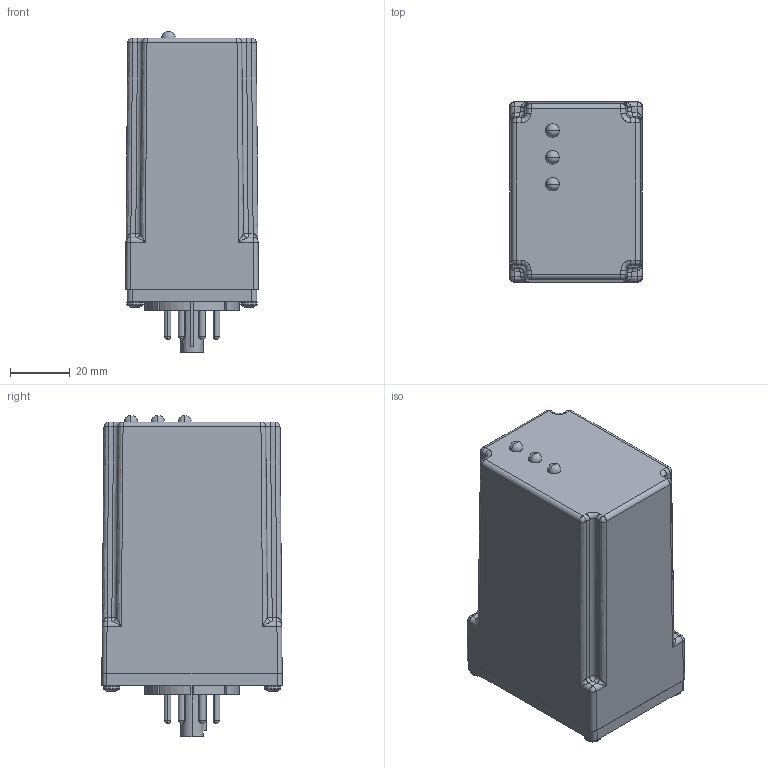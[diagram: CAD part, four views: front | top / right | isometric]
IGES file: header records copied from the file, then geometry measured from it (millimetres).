
Start section: SolidWorks IGES file using analytic representation for surfaces
Global section: file name: D:\Modeling Work\Macromatic\2019\Phase 2\ATP\ATP wo-Switch.IGS; native system: SolidWorks 2019; preprocessor: SolidWorks 2019; author: mdahl; date: 190701.200742; units: millimetre
Bounding box: 44.45 x 60.33 x 107.47 mm (x, y, z)
Surface area: 30919.7 mm2 (no closed solid volume)
Topology: 0 solids, 0 shells, 687 faces, 8502 edges, 8444 vertices
Faces by surface type: revolution 354, bspline 333
